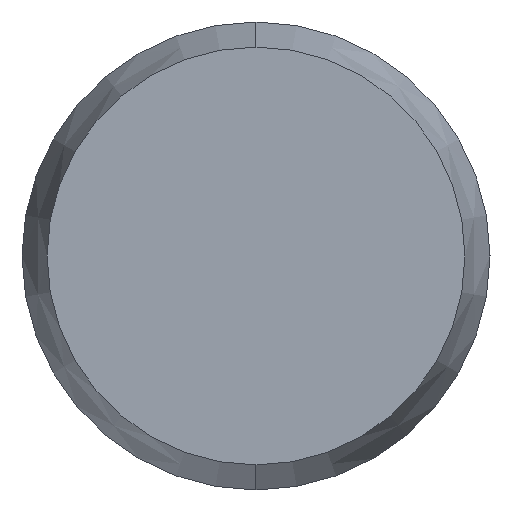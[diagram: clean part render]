
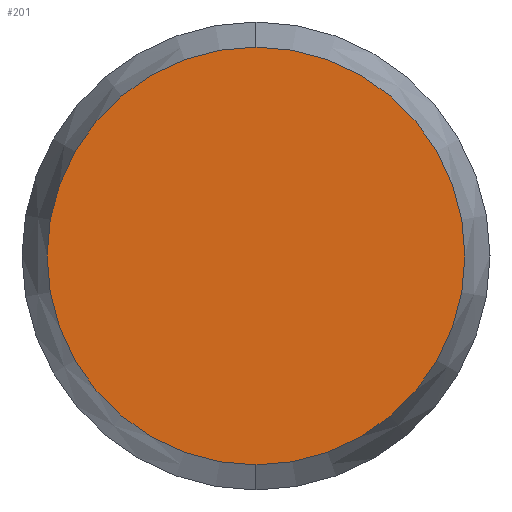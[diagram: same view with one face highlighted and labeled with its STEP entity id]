
A CAD part, left-side view. The second image highlights one B-rep face of the part: STEP entity #201.
In plain terms, the highlighted planar face has unit normal (-1, 0, 0).
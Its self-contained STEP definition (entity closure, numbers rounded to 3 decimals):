
#6 = VERTEX_POINT ( 'NONE', #129 ) ;
#7 = VERTEX_POINT ( 'NONE', #128 ) ;
#30 = DIRECTION ( 'NONE',  ( 0., 0., -1. ) ) ;
#31 = DIRECTION ( 'NONE',  ( 1., 0., 0. ) ) ;
#32 = CARTESIAN_POINT ( 'NONE',  ( -4., 0., 0. ) ) ;
#34 = AXIS2_PLACEMENT_3D ( 'NONE', #32, #31, #30 ) ;
#35 = PLANE ( 'NONE',  #34 ) ;
#39 = FACE_OUTER_BOUND ( 'NONE', #202, .T. ) ;
#105 = ORIENTED_EDGE ( 'NONE', *, *, #146, .F. ) ;
#108 = DIRECTION ( 'NONE',  ( 0., 0., -1. ) ) ;
#109 = DIRECTION ( 'NONE',  ( 1., 0., 0. ) ) ;
#110 = CARTESIAN_POINT ( 'NONE',  ( -4., 0., 0. ) ) ;
#111 = AXIS2_PLACEMENT_3D ( 'NONE', #110, #109, #108 ) ;
#114 = CIRCLE ( 'NONE', #111, 0.446 ) ;
#116 = DIRECTION ( 'NONE',  ( 0., 0., -1. ) ) ;
#117 = DIRECTION ( 'NONE',  ( 1., 0., 0. ) ) ;
#118 = CARTESIAN_POINT ( 'NONE',  ( -4., 0., 0. ) ) ;
#119 = AXIS2_PLACEMENT_3D ( 'NONE', #118, #117, #116 ) ;
#120 = CIRCLE ( 'NONE', #119, 0.446 ) ;
#128 = CARTESIAN_POINT ( 'NONE',  ( -4., 0., -0.446 ) ) ;
#129 = CARTESIAN_POINT ( 'NONE',  ( -4., 0., 0.446 ) ) ;
#146 = EDGE_CURVE ( 'NONE', #7, #6, #120, .T. ) ;
#187 = EDGE_CURVE ( 'NONE', #6, #7, #114, .T. ) ;
#201 = ADVANCED_FACE ( 'NONE', ( #39 ), #35, .F. ) ;
#202 = EDGE_LOOP ( 'NONE', ( #203, #105 ) ) ;
#203 = ORIENTED_EDGE ( 'NONE', *, *, #187, .F. ) ;
